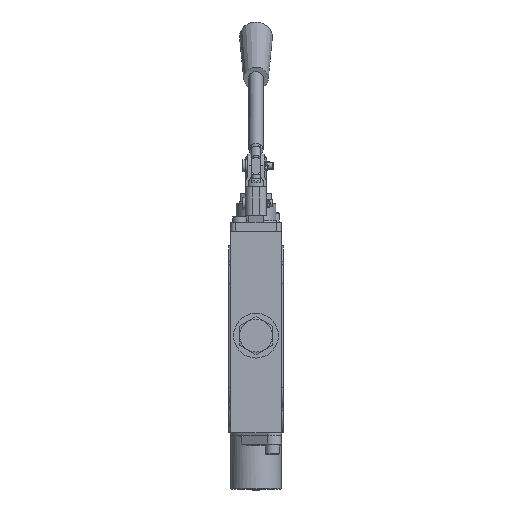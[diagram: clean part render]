
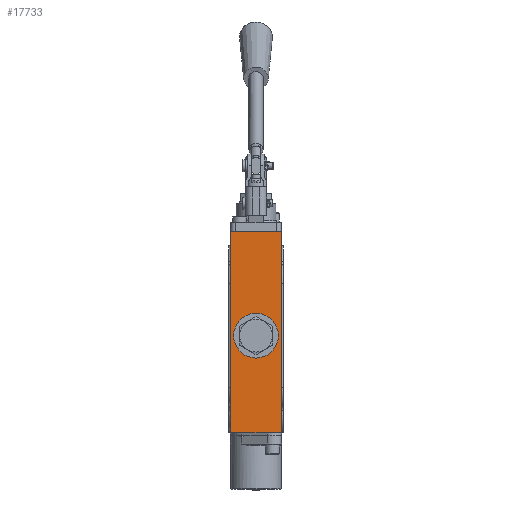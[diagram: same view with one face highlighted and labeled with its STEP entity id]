
A CAD part, front view. The second image highlights one B-rep face of the part: STEP entity #17733.
In plain terms, the highlighted planar face has unit normal (0, -1, 0).
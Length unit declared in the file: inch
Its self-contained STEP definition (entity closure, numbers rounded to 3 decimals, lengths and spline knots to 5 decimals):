
#17683=CARTESIAN_POINT('',(0.671,-1.656,0.0));
#17684=DIRECTION('',(0.0,-1.0,0.0));
#17685=DIRECTION('',(0.0,0.0,-1.0));
#17686=AXIS2_PLACEMENT_3D('',#17683,#17684,#17685);
#17687=PLANE('',#17686);
#17688=CARTESIAN_POINT('',(0.671,-1.656,2.6725));
#17689=VERTEX_POINT('',#17688);
#17690=CARTESIAN_POINT('',(-0.671,-1.656,2.6725));
#17691=VERTEX_POINT('',#17690);
#17692=CARTESIAN_POINT('',(0.671,-1.656,2.6725));
#17693=DIRECTION('',(-1.0,0.0,0.0));
#17694=VECTOR('',#17693,1.342);
#17695=LINE('',#17692,#17694);
#17696=EDGE_CURVE('',#17689,#17691,#17695,.T.);
#17697=ORIENTED_EDGE('',*,*,#17696,.T.);
#17698=CARTESIAN_POINT('',(-0.671,-1.656,-2.6715));
#17699=VERTEX_POINT('',#17698);
#17700=CARTESIAN_POINT('',(-0.671,-1.656,-2.6715));
#17701=DIRECTION('',(0.0,0.0,1.0));
#17702=VECTOR('',#17701,5.344);
#17703=LINE('',#17700,#17702);
#17704=EDGE_CURVE('',#17699,#17691,#17703,.T.);
#17705=ORIENTED_EDGE('',*,*,#17704,.F.);
#17706=CARTESIAN_POINT('',(0.671,-1.656,-2.6715));
#17707=VERTEX_POINT('',#17706);
#17708=CARTESIAN_POINT('',(-0.671,-1.656,-2.6715));
#17709=DIRECTION('',(1.0,0.0,0.0));
#17710=VECTOR('',#17709,1.342);
#17711=LINE('',#17708,#17710);
#17712=EDGE_CURVE('',#17699,#17707,#17711,.T.);
#17713=ORIENTED_EDGE('',*,*,#17712,.T.);
#17714=CARTESIAN_POINT('',(0.671,-1.656,-2.6715));
#17715=DIRECTION('',(0.0,0.0,1.0));
#17716=VECTOR('',#17715,5.344);
#17717=LINE('',#17714,#17716);
#17718=EDGE_CURVE('',#17707,#17689,#17717,.T.);
#17719=ORIENTED_EDGE('',*,*,#17718,.T.);
#17720=EDGE_LOOP('',(#17697,#17705,#17713,#17719));
#17721=FACE_OUTER_BOUND('',#17720,.T.);
#17722=CARTESIAN_POINT('',(0.594,-1.656,-0.0935));
#17723=VERTEX_POINT('',#17722);
#17724=CARTESIAN_POINT('',(0.0,-1.656,-0.0935));
#17725=DIRECTION('',(0.0,1.0,0.0));
#17726=DIRECTION('',(1.0,0.0,0.0));
#17727=AXIS2_PLACEMENT_3D('',#17724,#17725,#17726);
#17728=CIRCLE('',#17727,0.594);
#17729=EDGE_CURVE('',#17723,#17723,#17728,.T.);
#17730=ORIENTED_EDGE('',*,*,#17729,.T.);
#17731=EDGE_LOOP('',(#17730));
#17732=FACE_BOUND('',#17731,.T.);
#17733=ADVANCED_FACE('',(#17721,#17732),#17687,.T.);
